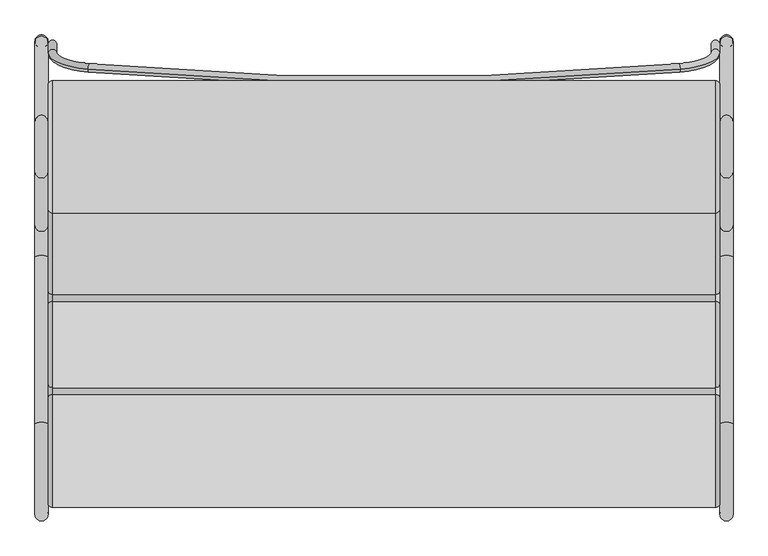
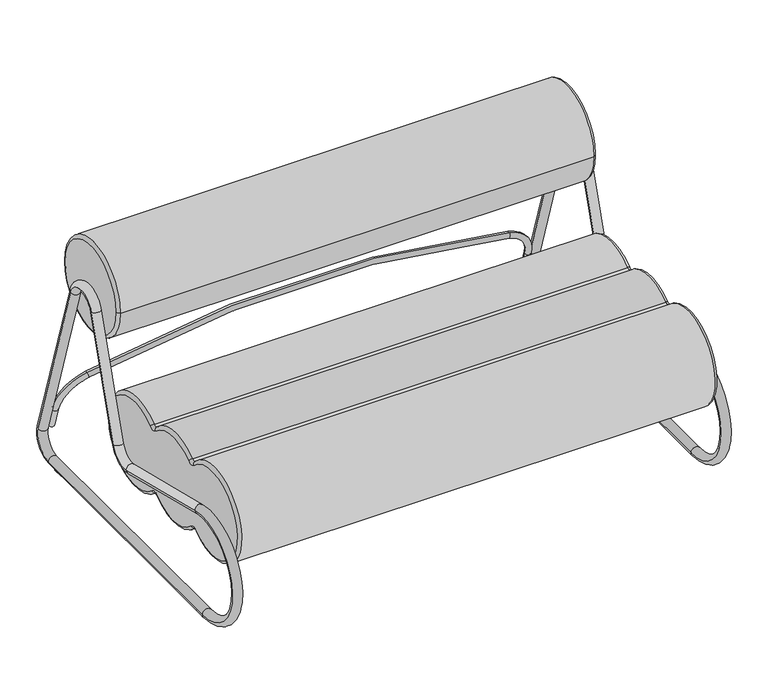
"""IFC4 building model written with IfcOpenShell, lengths in millimetres: furniture geometry, Norr11 - Fave Sofa : Norr11 - Fave Sofa."""

from ifc_helpers import new_model, si_unit, point, frame, frame_2d, origin, origin_with_axes, place, context, project, spatial, polyline, circle_curve, ellipse_curve, trimmed, segment, composite_curve, outline, extrude, source, transform, mapped, element, save
from ifc_brep_helpers import plane_surface, cylinder_surface, revolved_surface, advanced_brep


def furniture_9cea7e63(model_context):
    return source(origin(), model_context, "Body", "SolidModel", [
        advanced_brep(
        [(635.0, -99.0371066, 187.3023244), (635.0, -74.6397085, 186.1936304), (635.0, -66.5278768, 361.1205127), (635.0, -90.9152745, 362.2668383), (635.0, -242.5593695, 370.8688119), (635.0, -266.9214094, 372.4891571), (635.0, -278.6462906, 197.7786323), (635.0, -254.27705, 196.1200085), (-635.0, -74.6397085, 186.1936304), (-635.0, -99.0371066, 187.3023244), (-635.0, -254.27705, 196.1200085), (-635.0, -278.6462906, 197.7786323), (-635.0, -266.9214094, 372.4891571), (-635.0, -242.5593695, 370.8688119), (-635.0, -90.9152745, 362.2668383), (-635.0, -66.5278768, 361.1205127), (-626.5, -80.5343822, 180.0696756), (-626.5, -71.8305029, 367.7637165), (626.5, -71.8305029, 367.7637165), (626.5, -80.5343822, 180.0696756), (-626.5, -85.01288, 368.383352), (626.5, -85.01288, 368.383352), (-626.5, -247.7322118, 377.6135656), (626.5, -247.7322118, 377.6135656), (-626.5, -260.900882, 378.4894279), (626.5, -260.900882, 378.4894279), (-626.5, -273.4814999, 191.0277111), (626.5, -273.4814999, 191.0277111), (-626.5, -260.3089374, 190.1311577), (626.5, -260.3089374, 190.1311577), (-626.5, -93.7221649, 180.6689697), (626.5, -93.7221649, 180.6689697)],
        [
            (0, 1, circle_curve(frame((635.0, -87.4692924, 172.8650229), z_axis=(-1.0, 0.0, 0.0), x_axis=(0.0, 0.6934910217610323, 0.7204652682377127)), 18.5)),
            (1, 2, circle_curve(frame((635.0, 6.1250822, 270.099874), z_axis=(1.0, 0.0, 0.0), x_axis=(0.0, -0.6238383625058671, 0.7815533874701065)), 116.4611915)),
            (2, 3, circle_curve(frame((635.0, -78.0688865, 375.5792504), z_axis=(-1.0, 0.0, 0.0), x_axis=(0.0, -0.6943993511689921, -0.7195898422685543)), 18.5)),
            (3, 4, circle_curve(frame((635.0, -171.7319007, 278.5184546), z_axis=(1.0, 0.0, 0.0), x_axis=(0.0, -0.6085696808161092, 0.7935004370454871)), 116.383499)),
            (4, 5, circle_curve(frame((635.0, -253.8179086, 385.54857), z_axis=(-1.0, 0.0, 0.0), x_axis=(0.0, -0.7082973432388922, -0.705914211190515)), 18.5)),
            (5, 6, circle_curve(frame((635.0, -349.4116978, 290.2764149), z_axis=(1.0, 0.0, 0.0), x_axis=(0.0, 0.6076224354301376, -0.7942260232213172)), 116.4627952)),
            (6, 7, circle_curve(frame((635.0, -267.4052756, 183.0854509), z_axis=(-1.0, 0.0, 0.0), x_axis=(0.0, 0.7096338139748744, 0.7045706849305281)), 18.5)),
            (7, 0, circle_curve(frame((635.0, -171.7526851, 278.0555746), z_axis=(1.0, 0.0, 0.0), x_axis=(0.0, 0.6252872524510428, -0.7803946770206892)), 116.2914777)),
            (8, 9, circle_curve(frame((-635.0, -87.4692924, 172.8650229), z_axis=(1.0, 0.0, 0.0), x_axis=(0.0, 0.6934910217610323, 0.7204652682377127)), 18.5)),
            (9, 10, circle_curve(frame((-635.0, -171.7526851, 278.0555746), z_axis=(-1.0, 0.0, 0.0), x_axis=(0.0, 0.6252872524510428, -0.7803946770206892)), 116.2914777)),
            (10, 11, circle_curve(frame((-635.0, -267.4052756, 183.0854509), z_axis=(1.0, 0.0, 0.0), x_axis=(0.0, 0.7096338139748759, 0.7045706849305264)), 18.5)),
            (11, 12, circle_curve(frame((-635.0, -349.4116978, 290.2764149), z_axis=(-1.0, 0.0, 0.0), x_axis=(0.0, 0.6076224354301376, -0.7942260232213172)), 116.4627952)),
            (12, 13, circle_curve(frame((-635.0, -253.8179086, 385.54857), z_axis=(1.0, 0.0, 0.0), x_axis=(0.0, -0.7082973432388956, -0.7059142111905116)), 18.5)),
            (13, 14, circle_curve(frame((-635.0, -171.7319007, 278.5184546), z_axis=(-1.0, 0.0, 0.0), x_axis=(0.0, -0.6085696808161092, 0.7935004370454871)), 116.383499)),
            (14, 15, circle_curve(frame((-635.0, -78.0688865, 375.5792504), z_axis=(1.0, 0.0, 0.0), x_axis=(0.0, -0.6943993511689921, -0.7195898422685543)), 18.5)),
            (15, 8, circle_curve(frame((-635.0, 6.1250822, 270.099874), z_axis=(-1.0, 0.0, 0.0), x_axis=(0.0, -0.6238383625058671, 0.7815533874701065)), 116.4611915)),
            (16, 17, circle_curve(frame((-626.5, 6.1250822, 270.099874), z_axis=(1.0, 0.0, 0.0), x_axis=(0.0, -1.0, 0.0)), 124.9611915)),
            (17, 18),
            (18, 19, circle_curve(frame((626.5, 6.1250822, 270.099874), z_axis=(-1.0, 0.0, 0.0), x_axis=(0.0, -1.0, 0.0)), 124.9611915)),
            (19, 16),
            (17, 20, circle_curve(frame((-626.5, -78.0688865, 375.5792504), z_axis=(-1.0, 0.0, 0.0), x_axis=(0.0, -1.0, 0.0)), 10.0)),
            (20, 21),
            (21, 18, circle_curve(frame((626.5, -78.0688865, 375.5792504), z_axis=(1.0, 0.0, 0.0), x_axis=(0.0, -1.0, 0.0)), 10.0)),
            (20, 22, circle_curve(frame((-626.5, -171.7319007, 278.5184546), z_axis=(1.0, 0.0, 0.0), x_axis=(0.0, -1.0, 0.0)), 124.883499)),
            (22, 23),
            (23, 21, circle_curve(frame((626.5, -171.7319007, 278.5184546), z_axis=(-1.0, 0.0, 0.0), x_axis=(0.0, -1.0, 0.0)), 124.883499)),
            (22, 24, circle_curve(frame((-626.5, -253.8179086, 385.54857), z_axis=(-1.0, 0.0, 0.0), x_axis=(0.0, -1.0, 0.0)), 10.0)),
            (24, 25),
            (25, 23, circle_curve(frame((626.5, -253.8179086, 385.54857), z_axis=(1.0, 0.0, 0.0), x_axis=(0.0, -1.0, 0.0)), 10.0)),
            (24, 26, circle_curve(frame((-626.5, -349.4116978, 290.2764149), z_axis=(1.0, 0.0, 0.0), x_axis=(0.0, -1.0, 0.0)), 124.9627952)),
            (26, 27),
            (27, 25, circle_curve(frame((626.5, -349.4116978, 290.2764149), z_axis=(-1.0, 0.0, 0.0), x_axis=(0.0, -1.0, 0.0)), 124.9627952)),
            (26, 28, circle_curve(frame((-626.5, -267.4052756, 183.0854509), z_axis=(-1.0, 0.0, 0.0), x_axis=(0.0, -1.0, 0.0)), 10.0)),
            (28, 29),
            (29, 27, circle_curve(frame((626.5, -267.4052756, 183.0854509), z_axis=(1.0, 0.0, 0.0), x_axis=(0.0, -1.0, 0.0)), 10.0)),
            (28, 30, circle_curve(frame((-626.5, -171.7526851, 278.0555746), z_axis=(1.0, 0.0, 0.0), x_axis=(0.0, -1.0, 0.0)), 124.7914777)),
            (30, 31),
            (31, 29, circle_curve(frame((626.5, -171.7526851, 278.0555746), z_axis=(-1.0, 0.0, 0.0), x_axis=(0.0, -1.0, 0.0)), 124.7914777)),
            (30, 16, circle_curve(frame((-626.5, -87.4692924, 172.8650229), z_axis=(-1.0, 0.0, 0.0), x_axis=(0.0, -1.0, 0.0)), 10.0)),
            (19, 31, circle_curve(frame((626.5, -87.4692924, 172.8650229), z_axis=(1.0, 0.0, 0.0), x_axis=(0.0, -1.0, 0.0)), 10.0)),
            (30, 9, circle_curve(frame((-626.5, -99.0371066, 187.3023244), z_axis=(0.0, 0.7803946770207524, 0.6252872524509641), x_axis=(1.0, 0.0, 0.0)), 8.5)),
            (8, 16, circle_curve(frame((-626.5, -74.6397085, 186.1936304), z_axis=(0.0, -0.7204652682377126, 0.6934910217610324), x_axis=(1.0, 0.0, 0.0)), 8.5)),
            (28, 10, circle_curve(frame((-626.5, -254.27705, 196.1200085), z_axis=(0.0, 0.7045706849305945, -0.7096338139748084), x_axis=(1.0, 0.0, 0.0)), 8.5)),
            (26, 11, circle_curve(frame((-626.5, -278.6462906, 197.7786323), z_axis=(0.0, 0.794226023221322, 0.6076224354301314), x_axis=(1.0, 0.0, 0.0)), 8.5)),
            (24, 12, circle_curve(frame((-626.5, -266.9214094, 372.4891571), z_axis=(0.0, -0.7059142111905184, 0.7082973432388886), x_axis=(1.0, 0.0, 0.0)), 8.5)),
            (22, 13, circle_curve(frame((-626.5, -242.5593695, 370.8688119), z_axis=(0.0, -0.7935004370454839, -0.6085696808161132), x_axis=(1.0, 0.0, 0.0)), 8.5)),
            (20, 14, circle_curve(frame((-626.5, -90.9152745, 362.2668383), z_axis=(0.0, -0.719589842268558, 0.6943993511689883), x_axis=(1.0, 0.0, 0.0)), 8.5)),
            (17, 15, circle_curve(frame((-626.5, -66.5278768, 361.1205127), z_axis=(0.0, -0.781553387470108, -0.6238383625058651), x_axis=(1.0, 0.0, 0.0)), 8.5)),
            (0, 31, circle_curve(frame((626.5, -99.0371066, 187.3023244), z_axis=(0.0, 0.7803946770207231, 0.6252872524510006), x_axis=(-1.0, 0.0, 0.0)), 8.5)),
            (19, 1, circle_curve(frame((626.5, -74.6397085, 186.1936304), z_axis=(0.0, -0.7204652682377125, 0.6934910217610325), x_axis=(-1.0, 0.0, 0.0)), 8.5)),
            (7, 29, circle_curve(frame((626.5, -254.27705, 196.1200085), z_axis=(0.0, 0.704570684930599, -0.709633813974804), x_axis=(-1.0, 0.0, 0.0)), 8.5)),
            (6, 27, circle_curve(frame((626.5, -278.6462906, 197.7786323), z_axis=(0.0, 0.7942260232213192, 0.6076224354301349), x_axis=(-1.0, 0.0, 0.0)), 8.5)),
            (5, 25, circle_curve(frame((626.5, -266.9214094, 372.4891571), z_axis=(0.0, -0.7059142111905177, 0.7082973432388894), x_axis=(-1.0, 0.0, 0.0)), 8.5)),
            (4, 23, circle_curve(frame((626.5, -242.5593695, 370.8688119), z_axis=(0.0, -0.7935004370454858, -0.6085696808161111), x_axis=(-1.0, 0.0, 0.0)), 8.5)),
            (3, 21, circle_curve(frame((626.5, -90.9152745, 362.2668383), z_axis=(0.0, -0.7195898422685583, 0.694399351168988), x_axis=(-1.0, 0.0, 0.0)), 8.5)),
            (2, 18, circle_curve(frame((626.5, -66.5278768, 361.1205127), z_axis=(0.0, -0.7815533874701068, -0.6238383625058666), x_axis=(-1.0, 0.0, 0.0)), 8.5)),
        ],
        [
            plane_surface(frame((635.0, -118.8361093, 270.099874), z_axis=(1.0, 0.0, 0.0), x_axis=(0.0, 0.0, -1.0))),
            plane_surface(frame((-635.0, -118.8361093, 270.099874), z_axis=(-1.0, 0.0, 0.0), x_axis=(0.0, 0.0, 1.0))),
            cylinder_surface(frame((-635.0, 6.1250822, 270.099874), z_axis=(1.0, 0.0, 0.0), x_axis=(0.0, -1.0, 0.0)), 124.9611915),
            revolved_surface(polyline([(-626.5, -88.0688865, 375.5792504), (626.5, -88.0688865, 375.5792504)]), (-635.0, -78.0688865, 375.5792504), (-1.0, 0.0, 0.0)),
            cylinder_surface(frame((-635.0, -171.7319007, 278.5184546), z_axis=(1.0, 0.0, 0.0), x_axis=(0.0, -1.0, 0.0)), 124.883499),
            revolved_surface(polyline([(-626.5, -263.8179086, 385.54857), (626.5, -263.8179086, 385.54857)]), (-635.0, -253.8179086, 385.54857), (-1.0, 0.0, 0.0)),
            cylinder_surface(frame((-635.0, -349.4116978, 290.2764149), z_axis=(1.0, 0.0, 0.0), x_axis=(0.0, -1.0, 0.0)), 124.9627952),
            revolved_surface(polyline([(-626.5, -277.4052756, 183.0854509), (626.5, -277.4052756, 183.0854509)]), (-635.0, -267.4052756, 183.0854509), (-1.0, 0.0, 0.0)),
            cylinder_surface(frame((-635.0, -171.7526851, 278.0555746), z_axis=(1.0, 0.0, 0.0), x_axis=(0.0, -1.0, 0.0)), 124.7914777),
            revolved_surface(polyline([(-626.5, -97.4692924, 172.8650229), (626.5, -97.4692924, 172.8650229)]), (-635.0, -87.4692924, 172.8650229), (-1.0, 0.0, 0.0)),
            revolved_surface(trimmed(ellipse_curve(frame((-626.5, -74.6397085, 186.1936304), z_axis=(0.0, 0.7204652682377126, -0.6934910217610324), x_axis=(1.0, 0.0, 0.0)), 8.5, 8.5), [point((-626.5, -80.5343822, 180.0696756))], [point((-635.0, -74.6397085, 186.1936304))], True, "CARTESIAN"), (0.0, -87.4692924, 172.8650229), (1.0, 0.0, 0.0)),
            revolved_surface(trimmed(ellipse_curve(frame((-626.5, -99.0371066, 187.3023244), z_axis=(0.0, 0.7803946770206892, 0.6252872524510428), x_axis=(1.0, 0.0, 0.0)), 8.5, 8.5), [point((-626.5, -93.7221649, 180.6689697))], [point((-635.0, -99.0371066, 187.3023244))], True, "CARTESIAN"), (0.0, -171.7526851, 278.0555746), (-1.0, 0.0, 0.0)),
            revolved_surface(trimmed(ellipse_curve(frame((-626.5, -254.27705, 196.1200085), z_axis=(0.0, 0.7045706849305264, -0.7096338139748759), x_axis=(1.0, 0.0, 0.0)), 8.5, 8.5), [point((-626.5, -260.3089374, 190.1311577))], [point((-635.0, -254.27705, 196.1200085))], True, "CARTESIAN"), (0.0, -267.4052756, 183.0854509), (1.0, 0.0, 0.0)),
            revolved_surface(trimmed(ellipse_curve(frame((-626.5, -278.6462906, 197.7786323), z_axis=(0.0, 0.7942260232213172, 0.6076224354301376), x_axis=(1.0, 0.0, 0.0)), 8.5, 8.5), [point((-626.5, -273.4814999, 191.0277111))], [point((-635.0, -278.6462906, 197.7786323))], True, "CARTESIAN"), (0.0, -349.4116978, 290.2764149), (-1.0, 0.0, 0.0)),
            revolved_surface(trimmed(ellipse_curve(frame((-626.5, -266.9214094, 372.4891571), z_axis=(0.0, -0.7059142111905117, 0.7082973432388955), x_axis=(1.0, 0.0, 0.0)), 8.5, 8.5), [point((-626.5, -260.900882, 378.4894279))], [point((-635.0, -266.9214094, 372.4891571))], True, "CARTESIAN"), (0.0, -253.8179086, 385.54857), (1.0, 0.0, 0.0)),
            revolved_surface(trimmed(ellipse_curve(frame((-626.5, -242.5593695, 370.8688119), z_axis=(0.0, -0.793500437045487, -0.6085696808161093), x_axis=(1.0, 0.0, 0.0)), 8.5, 8.5), [point((-626.5, -247.7322118, 377.6135656))], [point((-635.0, -242.5593695, 370.8688119))], True, "CARTESIAN"), (0.0, -171.7319007, 278.5184546), (-1.0, 0.0, 0.0)),
            revolved_surface(trimmed(ellipse_curve(frame((-626.5, -90.9152745, 362.2668383), z_axis=(0.0, -0.7195898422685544, 0.694399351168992), x_axis=(1.0, 0.0, 0.0)), 8.5, 8.5), [point((-626.5, -85.01288, 368.383352))], [point((-635.0, -90.9152745, 362.2668383))], True, "CARTESIAN"), (0.0, -78.0688865, 375.5792504), (1.0, 0.0, 0.0)),
            revolved_surface(trimmed(ellipse_curve(frame((-626.5, -66.5278768, 361.1205127), z_axis=(0.0, -0.7815533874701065, -0.6238383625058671), x_axis=(1.0, 0.0, 0.0)), 8.5, 8.5), [point((-626.5, -71.8305029, 367.7637165))], [point((-635.0, -66.5278768, 361.1205127))], True, "CARTESIAN"), (0.0, 6.1250822, 270.099874), (-1.0, 0.0, 0.0)),
            revolved_surface(trimmed(ellipse_curve(frame((626.5, -74.6397085, 186.1936304), z_axis=(0.0, 0.7204652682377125, -0.6934910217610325), x_axis=(-1.0, 0.0, 0.0)), 8.5, 8.5), [point((635.0, -74.6397085, 186.1936304))], [point((626.5, -80.5343822, 180.0696756))], True, "CARTESIAN"), (335.0, -87.4692924, 172.8650229), (1.0, 0.0, 0.0)),
            revolved_surface(trimmed(ellipse_curve(frame((626.5, -99.0371066, 187.3023244), z_axis=(0.0, 0.7803946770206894, 0.6252872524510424), x_axis=(-1.0, 0.0, 0.0)), 8.5, 8.5), [point((635.0, -99.0371066, 187.3023244))], [point((626.5, -93.7221649, 180.6689697))], True, "CARTESIAN"), (335.0, -171.7526851, 278.0555746), (-1.0, 0.0, 0.0)),
            revolved_surface(trimmed(ellipse_curve(frame((626.5, -254.27705, 196.1200085), z_axis=(0.0, 0.704570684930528, -0.7096338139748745), x_axis=(-1.0, 0.0, 0.0)), 8.5, 8.5), [point((635.0, -254.27705, 196.1200085))], [point((626.5, -260.3089374, 190.1311577))], True, "CARTESIAN"), (335.0, -267.4052756, 183.0854509), (1.0, 0.0, 0.0)),
            revolved_surface(trimmed(ellipse_curve(frame((626.5, -278.6462906, 197.7786323), z_axis=(0.0, 0.7942260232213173, 0.6076224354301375), x_axis=(-1.0, 0.0, 0.0)), 8.5, 8.5), [point((635.0, -278.6462906, 197.7786323))], [point((626.5, -273.4814999, 191.0277111))], True, "CARTESIAN"), (335.0, -349.4116978, 290.2764149), (-1.0, 0.0, 0.0)),
            revolved_surface(trimmed(ellipse_curve(frame((626.5, -266.9214094, 372.4891571), z_axis=(0.0, -0.7059142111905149, 0.7082973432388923), x_axis=(-1.0, 0.0, 0.0)), 8.5, 8.5), [point((635.0, -266.9214094, 372.4891571))], [point((626.5, -260.900882, 378.4894279))], True, "CARTESIAN"), (335.0, -253.8179086, 385.54857), (1.0, 0.0, 0.0)),
            revolved_surface(trimmed(ellipse_curve(frame((626.5, -242.5593695, 370.8688119), z_axis=(0.0, -0.7935004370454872, -0.6085696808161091), x_axis=(-1.0, 0.0, 0.0)), 8.5, 8.5), [point((635.0, -242.5593695, 370.8688119))], [point((626.5, -247.7322118, 377.6135656))], True, "CARTESIAN"), (335.0, -171.7319007, 278.5184546), (-1.0, 0.0, 0.0)),
            revolved_surface(trimmed(ellipse_curve(frame((626.5, -90.9152745, 362.2668383), z_axis=(0.0, -0.7195898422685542, 0.6943993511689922), x_axis=(-1.0, 0.0, 0.0)), 8.5, 8.5), [point((635.0, -90.9152745, 362.2668383))], [point((626.5, -85.01288, 368.383352))], True, "CARTESIAN"), (335.0, -78.0688865, 375.5792504), (1.0, 0.0, 0.0)),
            revolved_surface(trimmed(ellipse_curve(frame((626.5, -66.5278768, 361.1205127), z_axis=(0.0, -0.7815533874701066, -0.6238383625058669), x_axis=(-1.0, 0.0, 0.0)), 8.5, 8.5), [point((635.0, -66.5278768, 361.1205127))], [point((626.5, -71.8305029, 367.7637165))], True, "CARTESIAN"), (335.0, 6.1250822, 270.099874), (-1.0, 0.0, 0.0)),
        ],
        [
            (0, [[1, 2, 3, 4, 5, 6, 7, 8]]),
            (1, [[9, 10, 11, 12, 13, 14, 15, 16]]),
            (2, [[17, 18, 19, 20]]),
            (3, [[21, 22, 23, -18]]),
            (4, [[24, 25, 26, -22]]),
            (5, [[27, 28, 29, -25]]),
            (6, [[30, 31, 32, -28]]),
            (7, [[33, 34, 35, -31]]),
            (8, [[36, 37, 38, -34]]),
            (9, [[39, -20, 40, -37]]),
            (10, [[41, -9, 42, -39]]),
            (11, [[-41, -36, 43, -10]]),
            (12, [[-43, -33, 44, -11]]),
            (13, [[-44, -30, 45, -12]]),
            (14, [[-45, -27, 46, -13]]),
            (15, [[-46, -24, 47, -14]]),
            (16, [[-47, -21, 48, -15]]),
            (17, [[-42, -16, -48, -17]]),
            (18, [[49, -40, 50, -1]]),
            (19, [[-49, -8, 51, -38]]),
            (20, [[-51, -7, 52, -35]]),
            (21, [[-52, -6, 53, -32]]),
            (22, [[-53, -5, 54, -29]]),
            (23, [[-54, -4, 55, -26]]),
            (24, [[-55, -3, 56, -23]]),
            (25, [[-50, -19, -56, -2]]),
        ],
    ),
        advanced_brep(
        [(635.0, 91.3471665, 584.8030049), (635.0, 324.3081823, 584.8030049), (-635.0, 324.3081823, 584.8030049), (-635.0, 91.3471665, 584.8030049), (-626.4805079, 332.8276744, 584.8030049), (-626.4805079, 82.8276744, 584.8030049), (626.4805129, 82.8276744, 584.8030049), (626.4805079, 332.8276744, 584.8030049)],
        [
            (0, 1, circle_curve(frame((635.0, 207.8276744, 584.8030049), z_axis=(1.0, 0.0, 0.0), x_axis=(0.0, -1.0, 0.0)), 116.4805079)),
            (1, 0, circle_curve(frame((635.0, 207.8276744, 584.8030049), z_axis=(1.0, 0.0, 0.0), x_axis=(0.0, 1.0, 0.0)), 116.4805079)),
            (2, 3, circle_curve(frame((-635.0, 207.8276744, 584.8030049), z_axis=(-1.0, 0.0, 0.0), x_axis=(0.0, -1.0, 0.0)), 116.4805079)),
            (3, 2, circle_curve(frame((-635.0, 207.8276744, 584.8030049), z_axis=(-1.0, 0.0, 0.0), x_axis=(0.0, 1.0, 0.0)), 116.4805079)),
            (4, 5, circle_curve(frame((-626.4805079, 207.8276744, 584.8030049), z_axis=(1.0, 0.0, 0.0), x_axis=(0.0, -1.0, 0.0)), 125.0)),
            (5, 6),
            (6, 7, circle_curve(frame((626.4805079, 207.8276744, 584.8030049), z_axis=(-1.0, 0.0, 0.0), x_axis=(0.0, -1.0, 0.0)), 125.0)),
            (7, 4),
            (5, 4, circle_curve(frame((-626.4805079, 207.8276744, 584.8030049), z_axis=(1.0, 0.0, 0.0), x_axis=(0.0, -1.0, 0.0)), 125.0)),
            (7, 6, circle_curve(frame((626.4805079, 207.8276744, 584.8030049), z_axis=(-1.0, 0.0, 0.0), x_axis=(0.0, -1.0, 0.0)), 125.0)),
            (2, 4, circle_curve(frame((-626.4805079, 324.3081823, 584.8030049), z_axis=(0.0, 0.0, -1.0), x_axis=(1.0, 0.0, 0.0)), 8.5194921)),
            (5, 3, circle_curve(frame((-626.4805079, 91.3471665, 584.8030049), z_axis=(0.0, 0.0, -1.0), x_axis=(1.0, 0.0, 0.0)), 8.5194921)),
            (7, 1, circle_curve(frame((626.4805079, 324.3081823, 584.8030049), z_axis=(0.0, 0.0, -1.0), x_axis=(-1.0, 0.0, 0.0)), 8.5194921)),
            (0, 6, circle_curve(frame((626.4805079, 91.3471665, 584.8030049), z_axis=(0.0, 0.0, -1.0), x_axis=(-1.0, 0.0, 0.0)), 8.5194921)),
        ],
        [
            plane_surface(frame((635.0, 82.8276744, 584.8030049), z_axis=(1.0, 0.0, 0.0), x_axis=(0.0, 0.0, -1.0))),
            plane_surface(frame((-635.0, 82.8276744, 584.8030049), z_axis=(-1.0, 0.0, 0.0), x_axis=(0.0, 0.0, 1.0))),
            cylinder_surface(frame((-635.0, 207.8276744, 584.8030049), z_axis=(1.0, 0.0, 0.0), x_axis=(0.0, -1.0, 0.0)), 125.0),
            revolved_surface(trimmed(ellipse_curve(frame((-626.4805079, 91.3471665, 584.8030049), z_axis=(0.0, 0.0, 1.0), x_axis=(1.0, 0.0, 0.0)), 8.5194921, 8.5194921), [point((-635.0, 91.3471665, 584.8030049))], [point((-626.4805079, 82.8276744, 584.8030049))], True, "CARTESIAN"), (0.0, 207.8276744, 584.8030049), (1.0, 0.0, 0.0)),
            revolved_surface(trimmed(ellipse_curve(frame((-626.4805079, 324.3081823, 584.8030049), z_axis=(0.0, 0.0, -1.0), x_axis=(1.0, 0.0, 0.0)), 8.5194921, 8.5194921), [point((-635.0, 324.3081823, 584.8030049))], [point((-626.4805079, 332.8276744, 584.8030049))], True, "CARTESIAN"), (0.0, 207.8276744, 584.8030049), (1.0, 0.0, 0.0)),
            revolved_surface(trimmed(ellipse_curve(frame((626.4805079, 91.3471665, 584.8030049), z_axis=(0.0, 0.0, 1.0), x_axis=(-1.0, 0.0, 0.0)), 8.5194921, 8.5194921), [point((626.4805079, 82.8276744, 584.8030049))], [point((635.0, 91.3471665, 584.8030049))], True, "CARTESIAN"), (335.0, 207.8276744, 584.8030049), (1.0, 0.0, 0.0)),
            revolved_surface(trimmed(ellipse_curve(frame((626.4805079, 324.3081823, 584.8030049), z_axis=(0.0, 0.0, -1.0), x_axis=(-1.0, 0.0, 0.0)), 8.5194921, 8.5194921), [point((626.4805079, 332.8276744, 584.8030049))], [point((635.0, 324.3081823, 584.8030049))], True, "CARTESIAN"), (335.0, 207.8276744, 584.8030049), (1.0, 0.0, 0.0)),
        ],
        [
            (0, [[1, 2]]),
            (1, [[3, 4]]),
            (2, [[5, 6, 7, 8]]),
            (2, [[9, -8, 10, -6]]),
            (3, [[11, -9, 12, -3]]),
            (4, [[-11, -4, -12, -5]]),
            (5, [[13, -1, 14, -10]]),
            (6, [[-13, -7, -14, -2]]),
        ],
    ),
        extrude(outline(composite_curve([segment(trimmed(circle_curve(frame_2d((647.9136531, 310.7190841)), 6.0000092), [point((653.9136623, 310.7190841))], [point((641.9136438, 310.7190841))], False, "CARTESIAN"), True, "CONTINUOUS"), segment(polyline([(641.9136438, 310.7190841), (641.9136438, 337.731551)]), True, "CONTINUOUS"), segment(trimmed(circle_curve(frame_2d((647.9136531, 337.731551)), 6.0000092), [point((641.9136438, 337.731551))], [point((653.9136623, 337.731551))], False, "CARTESIAN"), True, "CONTINUOUS"), segment(polyline([(653.9136623, 337.731551), (653.9136623, 310.7190841)]), True, "CONTINUOUS")], self_intersect=False)), origin_with_axes(), (0.0, 0.0, 1.0), 3.9643757),
        extrude(outline(composite_curve([segment(trimmed(circle_curve(frame_2d((647.9136531, -337.7499273)), 6.0000092), [point((653.9136623, -337.7499273))], [point((641.9136438, -337.7499273))], False, "CARTESIAN"), True, "CONTINUOUS"), segment(polyline([(641.9136438, -337.7499273), (641.9136438, -310.7374605)]), True, "CONTINUOUS"), segment(trimmed(circle_curve(frame_2d((647.9136531, -310.7374605)), 6.0000092), [point((641.9136438, -310.7374605))], [point((653.9136623, -310.7374605))], False, "CARTESIAN"), True, "CONTINUOUS"), segment(polyline([(653.9136623, -310.7374605), (653.9136623, -337.7499273)]), True, "CONTINUOUS")], self_intersect=False)), origin_with_axes(), (0.0, 0.0, 1.0), 3.9643757),
        extrude(outline(composite_curve([segment(polyline([(-653.9136623, 310.7190841), (-653.9136623, 337.731551)]), True, "CONTINUOUS"), segment(trimmed(circle_curve(frame_2d((-647.9136531, 337.731551)), 6.0000092), [point((-653.9136623, 337.731551))], [point((-641.9136438, 337.731551))], False, "CARTESIAN"), True, "CONTINUOUS"), segment(polyline([(-641.9136438, 337.731551), (-641.9136438, 310.7190841)]), True, "CONTINUOUS"), segment(trimmed(circle_curve(frame_2d((-647.9136531, 310.7190841)), 6.0000092), [point((-641.9136438, 310.7190841))], [point((-653.9136623, 310.7190841))], False, "CARTESIAN"), True, "CONTINUOUS")], self_intersect=False)), origin_with_axes(), (0.0, 0.0, 1.0), 3.9643757),
        extrude(outline(composite_curve([segment(polyline([(-653.9136623, -337.7499273), (-653.9136623, -310.7374605)]), True, "CONTINUOUS"), segment(trimmed(circle_curve(frame_2d((-647.9136531, -310.7374605)), 6.0000092), [point((-653.9136623, -310.7374605))], [point((-641.9136438, -310.7374605))], False, "CARTESIAN"), True, "CONTINUOUS"), segment(polyline([(-641.9136438, -310.7374605), (-641.9136438, -337.7499273)]), True, "CONTINUOUS"), segment(trimmed(circle_curve(frame_2d((-647.9136531, -337.7499273)), 6.0000092), [point((-641.9136438, -337.7499273))], [point((-653.9136623, -337.7499273))], False, "CARTESIAN"), True, "CONTINUOUS")], self_intersect=False)), origin_with_axes(), (0.0, 0.0, 1.0), 3.9643757),
        advanced_brep(
        [(659.7897199, -316.59218, 284.7942569), (659.7897199, -349.7757849, 13.8640186), (634.7897199, -349.7757849, 13.8640186), (634.7897199, -316.59218, 284.7942569), (634.7897199, -0.9459559, 206.2958087), (659.7897199, -0.9459559, 206.2958087), (659.7897199, 59.2781389, 239.7143765), (634.7897199, 59.2781389, 239.7143765), (634.7897199, 160.2647078, 550.847029), (659.7897199, 160.2647078, 550.847029), (659.7897199, 255.4805117, 550.5173581), (634.7897199, 255.4805117, 550.5173581), (634.7897199, 405.1400834, 78.3158499), (659.7897199, 405.1400834, 78.3158499), (659.7897199, 357.9559433, 13.8640186), (634.7897199, 357.9559433, 13.8640186)],
        [
            (0, 1, circle_curve(frame((659.7897199, -349.7757849, 151.361306), z_axis=(1.0, 0.0, 0.0), x_axis=(0.0, 0.0, -1.0)), 137.4972874)),
            (1, 2, circle_curve(frame((647.2897199, -349.7757849, 13.8640186), z_axis=(0.0, -1.0, 0.0), x_axis=(-1.0, 0.0, 0.0)), 12.5)),
            (2, 3, circle_curve(frame((634.7897199, -349.7757849, 151.361306), z_axis=(-1.0, 0.0, 0.0), x_axis=(0.0, 0.0, -1.0)), 137.4972874)),
            (3, 0, circle_curve(frame((647.2897199, -316.59218, 284.7942569), z_axis=(0.0, -0.9704406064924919, 0.24134006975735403), x_axis=(-1.0, 0.0, 0.0)), 12.5)),
            (2, 1, circle_curve(frame((647.2897199, -349.7757849, 13.8640186), z_axis=(0.0, -1.0, 0.0), x_axis=(-1.0, 0.0, 0.0)), 12.5)),
            (0, 3, circle_curve(frame((647.2897199, -316.59218, 284.7942569), z_axis=(0.0, -0.9704406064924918, 0.24134006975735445), x_axis=(-1.0, 0.0, 0.0)), 12.5)),
            (3, 4),
            (4, 5, circle_curve(frame((647.2897199, -0.9459559, 206.2958087), z_axis=(0.0, -0.9704406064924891, 0.24134006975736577), x_axis=(-1.0, 0.0, 0.0)), 12.5)),
            (5, 0),
            (5, 4, circle_curve(frame((647.2897199, -0.9459559, 206.2958087), z_axis=(0.0, -0.9704406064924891, 0.24134006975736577), x_axis=(-1.0, 0.0, 0.0)), 12.5)),
            (6, 5, circle_curve(frame((659.7897199, 11.2423723, 255.3056917), z_axis=(-1.0, 0.0, 0.0), x_axis=(0.0, -0.24134006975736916, -0.9704406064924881)), 50.5027126)),
            (4, 7, circle_curve(frame((634.7897199, 11.2423723, 255.3056917), z_axis=(1.0, 0.0, 0.0), x_axis=(0.0, -0.24134006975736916, -0.9704406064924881)), 50.5027126)),
            (7, 6, circle_curve(frame((647.2897199, 59.2781389, 239.7143765), z_axis=(0.0, -0.3087223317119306, -0.951152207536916), x_axis=(-1.0, 0.0, 0.0)), 12.5)),
            (6, 7, circle_curve(frame((647.2897199, 59.2781389, 239.7143765), z_axis=(0.0, -0.3087223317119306, -0.951152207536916), x_axis=(-1.0, 0.0, 0.0)), 12.5)),
            (7, 8),
            (8, 9, circle_curve(frame((647.2897199, 160.2647078, 550.847029), z_axis=(0.0, -0.30872233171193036, -0.9511522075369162), x_axis=(-1.0, 0.0, 0.0)), 12.5)),
            (9, 6),
            (9, 8, circle_curve(frame((647.2897199, 160.2647078, 550.847029), z_axis=(0.0, -0.30872233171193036, -0.9511522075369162), x_axis=(-1.0, 0.0, 0.0)), 12.5)),
            (10, 9, circle_curve(frame((659.7897199, 207.819738, 535.4117499), z_axis=(1.0, 0.0, 0.0), x_axis=(0.0, -0.9511522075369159, 0.30872233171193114)), 49.9972874)),
            (8, 11, circle_curve(frame((634.7897199, 207.819738, 535.4117499), z_axis=(-1.0, 0.0, 0.0), x_axis=(0.0, -0.9511522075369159, 0.30872233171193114)), 49.9972874)),
            (11, 10, circle_curve(frame((647.2897199, 255.4805117, 550.5173581), z_axis=(0.0, -0.3021285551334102, 0.9532671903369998), x_axis=(-1.0, 0.0, 0.0)), 12.5)),
            (10, 11, circle_curve(frame((647.2897199, 255.4805117, 550.5173581), z_axis=(0.0, -0.3021285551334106, 0.9532671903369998), x_axis=(-1.0, 0.0, 0.0)), 12.5)),
            (11, 12),
            (12, 13, circle_curve(frame((647.2897199, 405.1400834, 78.3158499), z_axis=(0.0, -0.3021285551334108, 0.9532671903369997), x_axis=(-1.0, 0.0, 0.0)), 12.5)),
            (13, 10),
            (13, 12, circle_curve(frame((647.2897199, 405.1400834, 78.3158499), z_axis=(0.0, -0.3021285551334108, 0.9532671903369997), x_axis=(-1.0, 0.0, 0.0)), 12.5)),
            (14, 13, circle_curve(frame((659.7897199, 357.9559433, 63.361306), z_axis=(1.0, 0.0, 0.0), x_axis=(0.0, 0.9532671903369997, 0.3021285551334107)), 49.4972874)),
            (12, 15, circle_curve(frame((634.7897199, 357.9559433, 63.361306), z_axis=(-1.0, 0.0, 0.0), x_axis=(0.0, 0.9532671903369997, 0.3021285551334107)), 49.4972874)),
            (15, 14, circle_curve(frame((647.2897199, 357.9559433, 13.8640186), z_axis=(0.0, 1.0, 0.0), x_axis=(-1.0, 0.0, 0.0)), 12.5)),
            (14, 15, circle_curve(frame((647.2897199, 357.9559433, 13.8640186), z_axis=(0.0, 1.0, 0.0), x_axis=(-1.0, 0.0, 0.0)), 12.5)),
            (15, 2),
            (1, 14),
        ],
        [
            revolved_surface(trimmed(ellipse_curve(frame((647.2897199, -349.7757849, 13.8640186), z_axis=(0.0, 1.0, 0.0), x_axis=(-1.0, 0.0, 0.0)), 12.5, 12.5), [point((634.7897199, -349.7757849, 13.8640186))], [point((659.7897199, -349.7757849, 13.8640186))], True, "CARTESIAN"), (335.0, -349.7757849, 151.361306), (-1.0, 0.0, 0.0)),
            revolved_surface(trimmed(ellipse_curve(frame((647.2897199, -349.7757849, 13.8640186), z_axis=(0.0, 1.0, 0.0), x_axis=(-1.0, 0.0, 0.0)), 12.5, 12.5), [point((659.7897199, -349.7757849, 13.8640186))], [point((634.7897199, -349.7757849, 13.8640186))], True, "CARTESIAN"), (335.0, -349.7757849, 151.361306), (-1.0, 0.0, 0.0)),
            cylinder_surface(frame((647.2897199, -316.59218, 284.7942569), z_axis=(0.0, -0.9704406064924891, 0.24134006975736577), x_axis=(-1.0, 0.0, 0.0)), 12.5),
            revolved_surface(trimmed(ellipse_curve(frame((647.2897199, -0.9459559, 206.2958087), z_axis=(0.0, -0.9704406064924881, 0.241340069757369), x_axis=(-1.0, 0.0, 0.0)), 12.5, 12.5), [point((634.7897199, -0.9459559, 206.2958087))], [point((659.7897199, -0.9459559, 206.2958087))], True, "CARTESIAN"), (335.0, 11.2423723, 255.3056917), (1.0, 0.0, 0.0)),
            revolved_surface(trimmed(ellipse_curve(frame((647.2897199, -0.9459559, 206.2958087), z_axis=(0.0, -0.9704406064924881, 0.241340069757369), x_axis=(-1.0, 0.0, 0.0)), 12.5, 12.5), [point((659.7897199, -0.9459559, 206.2958087))], [point((634.7897199, -0.9459559, 206.2958087))], True, "CARTESIAN"), (335.0, 11.2423723, 255.3056917), (1.0, 0.0, 0.0)),
            cylinder_surface(frame((647.2897199, 59.2781389, 239.7143765), z_axis=(0.0, -0.30872233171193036, -0.9511522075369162), x_axis=(-1.0, 0.0, 0.0)), 12.5),
            revolved_surface(trimmed(ellipse_curve(frame((647.2897199, 160.2647078, 550.847029), z_axis=(0.0, -0.3087223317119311, -0.9511522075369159), x_axis=(-1.0, 0.0, 0.0)), 12.5, 12.5), [point((634.7897199, 160.2647078, 550.847029))], [point((659.7897199, 160.2647078, 550.847029))], True, "CARTESIAN"), (335.0, 207.819738, 535.4117499), (-1.0, 0.0, 0.0)),
            revolved_surface(trimmed(ellipse_curve(frame((647.2897199, 160.2647078, 550.847029), z_axis=(0.0, -0.3087223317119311, -0.9511522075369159), x_axis=(-1.0, 0.0, 0.0)), 12.5, 12.5), [point((659.7897199, 160.2647078, 550.847029))], [point((634.7897199, 160.2647078, 550.847029))], True, "CARTESIAN"), (335.0, 207.819738, 535.4117499), (-1.0, 0.0, 0.0)),
            cylinder_surface(frame((647.2897199, 255.4805117, 550.5173581), z_axis=(0.0, -0.3021285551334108, 0.9532671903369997), x_axis=(-1.0, 0.0, 0.0)), 12.5),
            revolved_surface(trimmed(ellipse_curve(frame((647.2897199, 405.1400834, 78.3158499), z_axis=(0.0, -0.30212855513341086, 0.9532671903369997), x_axis=(-1.0, 0.0, 0.0)), 12.5, 12.5), [point((634.7897199, 405.1400834, 78.3158499))], [point((659.7897199, 405.1400834, 78.3158499))], True, "CARTESIAN"), (335.0, 357.9559433, 63.361306), (-1.0, 0.0, 0.0)),
            revolved_surface(trimmed(ellipse_curve(frame((647.2897199, 405.1400834, 78.3158499), z_axis=(0.0, -0.30212855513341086, 0.9532671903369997), x_axis=(-1.0, 0.0, 0.0)), 12.5, 12.5), [point((659.7897199, 405.1400834, 78.3158499))], [point((634.7897199, 405.1400834, 78.3158499))], True, "CARTESIAN"), (335.0, 357.9559433, 63.361306), (-1.0, 0.0, 0.0)),
            cylinder_surface(frame((647.2897199, 357.9559433, 13.8640186), z_axis=(0.0, 1.0, 0.0), x_axis=(-1.0, 0.0, 0.0)), 12.5),
        ],
        [
            (0, [[1, 2, 3, 4]]),
            (1, [[-3, 5, -1, 6]]),
            (2, [[-4, 7, 8, 9]]),
            (2, [[-6, -9, 10, -7]]),
            (3, [[11, -8, 12, 13]]),
            (4, [[-12, -10, -11, 14]]),
            (5, [[-13, 15, 16, 17]]),
            (5, [[-14, -17, 18, -15]]),
            (6, [[19, -16, 20, 21]]),
            (7, [[-20, -18, -19, 22]]),
            (8, [[-21, 23, 24, 25]]),
            (8, [[-22, -25, 26, -23]]),
            (9, [[27, -24, 28, 29]]),
            (10, [[-28, -26, -27, 30]]),
            (11, [[-29, 31, -2, 32]]),
            (11, [[-30, -32, -5, -31]]),
        ],
    ),
        advanced_brep(
        [(-634.7897199, -316.59218, 284.7942569), (-634.7897199, -349.7757849, 13.8640186), (-659.7897199, -349.7757849, 13.8640186), (-659.7897199, -316.59218, 284.7942569), (-659.7897199, -0.9459559, 206.2958087), (-634.7897199, -0.9459559, 206.2958087), (-634.7897199, 59.2781389, 239.7143765), (-659.7897199, 59.2781389, 239.7143765), (-659.7897199, 160.2647078, 550.847029), (-634.7897199, 160.2647078, 550.847029), (-634.7897199, 255.4805117, 550.5173581), (-659.7897199, 255.4805117, 550.5173581), (-659.7897199, 405.1400834, 78.3158499), (-634.7897199, 405.1400834, 78.3158499), (-634.7897199, 357.9559433, 13.8640186), (-659.7897199, 357.9559433, 13.8640186)],
        [
            (0, 1, circle_curve(frame((-634.7897199, -349.7757849, 151.361306), z_axis=(1.0, 0.0, 0.0), x_axis=(0.0, 0.0, -1.0)), 137.4972874)),
            (1, 2, circle_curve(frame((-647.2897199, -349.7757849, 13.8640186), z_axis=(0.0, -1.0, 0.0), x_axis=(1.0, 0.0, 0.0)), 12.5)),
            (2, 3, circle_curve(frame((-659.7897199, -349.7757849, 151.361306), z_axis=(-1.0, 0.0, 0.0), x_axis=(0.0, 0.0, -1.0)), 137.4972874)),
            (3, 0, circle_curve(frame((-647.2897199, -316.59218, 284.7942569), z_axis=(0.0, -0.9704406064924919, 0.24134006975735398), x_axis=(1.0, 0.0, 0.0)), 12.5)),
            (2, 1, circle_curve(frame((-647.2897199, -349.7757849, 13.8640186), z_axis=(0.0, -1.0, 0.0), x_axis=(1.0, 0.0, 0.0)), 12.5)),
            (0, 3, circle_curve(frame((-647.2897199, -316.59218, 284.7942569), z_axis=(0.0, -0.9704406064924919, 0.24134006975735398), x_axis=(1.0, 0.0, 0.0)), 12.5)),
            (3, 4),
            (4, 5, circle_curve(frame((-647.2897199, -0.9459559, 206.2958087), z_axis=(0.0, -0.9704406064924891, 0.24134006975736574), x_axis=(1.0, 0.0, 0.0)), 12.5)),
            (5, 0),
            (5, 4, circle_curve(frame((-647.2897199, -0.9459559, 206.2958087), z_axis=(0.0, -0.9704406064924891, 0.24134006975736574), x_axis=(1.0, 0.0, 0.0)), 12.5)),
            (6, 5, circle_curve(frame((-634.7897199, 11.2423723, 255.3056917), z_axis=(-1.0, 0.0, 0.0), x_axis=(0.0, -0.24134006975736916, -0.9704406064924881)), 50.5027126)),
            (4, 7, circle_curve(frame((-659.7897199, 11.2423723, 255.3056917), z_axis=(1.0, 0.0, 0.0), x_axis=(0.0, -0.24134006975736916, -0.9704406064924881)), 50.5027126)),
            (7, 6, circle_curve(frame((-647.2897199, 59.2781389, 239.7143765), z_axis=(0.0, -0.3087223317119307, -0.951152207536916), x_axis=(1.0, 0.0, 0.0)), 12.5)),
            (6, 7, circle_curve(frame((-647.2897199, 59.2781389, 239.7143765), z_axis=(0.0, -0.3087223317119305, -0.9511522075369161), x_axis=(1.0, 0.0, 0.0)), 12.5)),
            (7, 8),
            (8, 9, circle_curve(frame((-647.2897199, 160.2647078, 550.847029), z_axis=(0.0, -0.3087223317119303, -0.9511522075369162), x_axis=(1.0, 0.0, 0.0)), 12.5)),
            (9, 6),
            (9, 8, circle_curve(frame((-647.2897199, 160.2647078, 550.847029), z_axis=(0.0, -0.3087223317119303, -0.9511522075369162), x_axis=(1.0, 0.0, 0.0)), 12.5)),
            (10, 9, circle_curve(frame((-634.7897199, 207.819738, 535.4117499), z_axis=(1.0, 0.0, 0.0), x_axis=(0.0, -0.9511522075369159, 0.30872233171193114)), 49.9972874)),
            (8, 11, circle_curve(frame((-659.7897199, 207.819738, 535.4117499), z_axis=(-1.0, 0.0, 0.0), x_axis=(0.0, -0.9511522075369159, 0.30872233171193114)), 49.9972874)),
            (11, 10, circle_curve(frame((-647.2897199, 255.4805117, 550.5173581), z_axis=(0.0, -0.3021285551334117, 0.9532671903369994), x_axis=(1.0, 0.0, 0.0)), 12.5)),
            (10, 11, circle_curve(frame((-647.2897199, 255.4805117, 550.5173581), z_axis=(0.0, -0.30212855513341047, 0.9532671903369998), x_axis=(1.0, 0.0, 0.0)), 12.5)),
            (11, 12),
            (12, 13, circle_curve(frame((-647.2897199, 405.1400834, 78.3158499), z_axis=(0.0, -0.3021285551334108, 0.9532671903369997), x_axis=(1.0, 0.0, 0.0)), 12.5)),
            (13, 10),
            (13, 12, circle_curve(frame((-647.2897199, 405.1400834, 78.3158499), z_axis=(0.0, -0.3021285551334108, 0.9532671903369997), x_axis=(1.0, 0.0, 0.0)), 12.5)),
            (14, 13, circle_curve(frame((-634.7897199, 357.9559433, 63.361306), z_axis=(1.0, 0.0, 0.0), x_axis=(0.0, 0.9532671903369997, 0.3021285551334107)), 49.4972874)),
            (12, 15, circle_curve(frame((-659.7897199, 357.9559433, 63.361306), z_axis=(-1.0, 0.0, 0.0), x_axis=(0.0, 0.9532671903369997, 0.3021285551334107)), 49.4972874)),
            (15, 14, circle_curve(frame((-647.2897199, 357.9559433, 13.8640186), z_axis=(0.0, 0.9999999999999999, 0.0), x_axis=(1.0, 0.0, 0.0)), 12.5)),
            (14, 15, circle_curve(frame((-647.2897199, 357.9559433, 13.8640186), z_axis=(0.0, 0.9999999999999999, 0.0), x_axis=(1.0, 0.0, 0.0)), 12.5)),
            (15, 2),
            (1, 14),
        ],
        [
            revolved_surface(trimmed(ellipse_curve(frame((-647.2897199, -349.7757849, 13.8640186), z_axis=(0.0, 1.0, 0.0), x_axis=(1.0, 0.0, 0.0)), 12.5, 12.5), [point((-659.7897199, -349.7757849, 13.8640186))], [point((-634.7897199, -349.7757849, 13.8640186))], True, "CARTESIAN"), (0.0, -349.7757849, 151.361306), (-1.0, 0.0, 0.0)),
            revolved_surface(trimmed(ellipse_curve(frame((-647.2897199, -349.7757849, 13.8640186), z_axis=(0.0, 1.0, 0.0), x_axis=(1.0, 0.0, 0.0)), 12.5, 12.5), [point((-634.7897199, -349.7757849, 13.8640186))], [point((-659.7897199, -349.7757849, 13.8640186))], True, "CARTESIAN"), (0.0, -349.7757849, 151.361306), (-1.0, 0.0, 0.0)),
            cylinder_surface(frame((-647.2897199, -316.59218, 284.7942569), z_axis=(0.0, -0.9704406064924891, 0.24134006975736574), x_axis=(1.0, 0.0, 0.0)), 12.5),
            revolved_surface(trimmed(ellipse_curve(frame((-647.2897199, -0.9459559, 206.2958087), z_axis=(0.0, -0.9704406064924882, 0.2413400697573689), x_axis=(1.0, 0.0, 0.0)), 12.5, 12.5), [point((-659.7897199, -0.9459559, 206.2958087))], [point((-634.7897199, -0.9459559, 206.2958087))], True, "CARTESIAN"), (0.0, 11.2423723, 255.3056917), (1.0, 0.0, 0.0)),
            revolved_surface(trimmed(ellipse_curve(frame((-647.2897199, -0.9459559, 206.2958087), z_axis=(0.0, -0.9704406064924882, 0.2413400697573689), x_axis=(1.0, 0.0, 0.0)), 12.5, 12.5), [point((-634.7897199, -0.9459559, 206.2958087))], [point((-659.7897199, -0.9459559, 206.2958087))], True, "CARTESIAN"), (0.0, 11.2423723, 255.3056917), (1.0, 0.0, 0.0)),
            cylinder_surface(frame((-647.2897199, 59.2781389, 239.7143765), z_axis=(0.0, -0.3087223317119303, -0.9511522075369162), x_axis=(1.0, 0.0, 0.0)), 12.5),
            revolved_surface(trimmed(ellipse_curve(frame((-647.2897199, 160.2647078, 550.847029), z_axis=(0.0, -0.3087223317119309, -0.951152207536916), x_axis=(1.0, 0.0, 0.0)), 12.5, 12.5), [point((-659.7897199, 160.2647078, 550.847029))], [point((-634.7897199, 160.2647078, 550.847029))], True, "CARTESIAN"), (0.0, 207.819738, 535.4117499), (-1.0, 0.0, 0.0)),
            revolved_surface(trimmed(ellipse_curve(frame((-647.2897199, 160.2647078, 550.847029), z_axis=(0.0, -0.3087223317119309, -0.951152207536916), x_axis=(1.0, 0.0, 0.0)), 12.5, 12.5), [point((-634.7897199, 160.2647078, 550.847029))], [point((-659.7897199, 160.2647078, 550.847029))], True, "CARTESIAN"), (0.0, 207.819738, 535.4117499), (-1.0, 0.0, 0.0)),
            cylinder_surface(frame((-647.2897199, 255.4805117, 550.5173581), z_axis=(0.0, -0.3021285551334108, 0.9532671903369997), x_axis=(1.0, 0.0, 0.0)), 12.5),
            revolved_surface(trimmed(ellipse_curve(frame((-647.2897199, 405.1400834, 78.3158499), z_axis=(0.0, -0.30212855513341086, 0.9532671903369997), x_axis=(1.0, 0.0, 0.0)), 12.5, 12.5), [point((-659.7897199, 405.1400834, 78.3158499))], [point((-634.7897199, 405.1400834, 78.3158499))], True, "CARTESIAN"), (0.0, 357.9559433, 63.361306), (-1.0, 0.0, 0.0)),
            revolved_surface(trimmed(ellipse_curve(frame((-647.2897199, 405.1400834, 78.3158499), z_axis=(0.0, -0.30212855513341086, 0.9532671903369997), x_axis=(1.0, 0.0, 0.0)), 12.5, 12.5), [point((-634.7897199, 405.1400834, 78.3158499))], [point((-659.7897199, 405.1400834, 78.3158499))], True, "CARTESIAN"), (0.0, 357.9559433, 63.361306), (-1.0, 0.0, 0.0)),
            cylinder_surface(frame((-647.2897199, 357.9559433, 13.8640186), z_axis=(0.0, 1.0, 0.0), x_axis=(1.0, 0.0, 0.0)), 12.5),
        ],
        [
            (0, [[1, 2, 3, 4]]),
            (1, [[-3, 5, -1, 6]]),
            (2, [[-4, 7, 8, 9]]),
            (2, [[-6, -9, 10, -7]]),
            (3, [[11, -8, 12, 13]]),
            (4, [[-12, -10, -11, 14]]),
            (5, [[-13, 15, 16, 17]]),
            (5, [[-14, -17, 18, -15]]),
            (6, [[19, -16, 20, 21]]),
            (7, [[-20, -18, -19, 22]]),
            (8, [[-21, 23, 24, 25]]),
            (8, [[-22, -25, 26, -23]]),
            (9, [[27, -24, 28, 29]]),
            (10, [[-28, -26, -27, 30]]),
            (11, [[-29, 31, -2, 32]]),
            (11, [[-30, -32, -5, -31]]),
        ],
    ),
        advanced_brep(
        [(-618.648193, 402.1069235, 80.8824041), (-634.648193, 402.1069235, 80.8824041), (618.648193, 402.1069235, 80.8824041), (634.648193, 402.1069235, 80.8824041), (-618.648193, 385.3890367, 133.6190929), (-634.648193, 385.3890367, 133.6190929), (-559.8974243, 354.7876831, 230.1512729), (-555.1838218, 359.4080909, 215.5761646), (559.869194, 354.7405197, 230.3000499), (555.1598538, 359.3613245, 215.7236897), (634.648193, 385.3445019, 133.759578), (618.648193, 385.3445019, 133.759578)],
        [
            (0, 1, circle_curve(frame((-626.648193, 402.1069235, 80.8824041), z_axis=(0.0, 0.30218633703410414, -0.9532488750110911), x_axis=(-1.0, 0.0, 0.0)), 8.0)),
            (1, 0, circle_curve(frame((-626.648193, 402.1069235, 80.8824041), z_axis=(0.0, 0.30218633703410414, -0.9532488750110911), x_axis=(-1.0, 0.0, 0.0)), 8.0)),
            (2, 3, circle_curve(frame((626.648193, 402.1069235, 80.8824041), z_axis=(0.0, 0.30218633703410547, -0.9532488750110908), x_axis=(1.0, 0.0, 0.0)), 8.0)),
            (3, 2, circle_curve(frame((626.648193, 402.1069235, 80.8824041), z_axis=(0.0, 0.30218633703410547, -0.9532488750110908), x_axis=(1.0, 0.0, 0.0)), 8.0)),
            (0, 4),
            (4, 5, circle_curve(frame((-626.648193, 385.3890367, 133.6190929), z_axis=(0.0, 0.30218633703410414, -0.9532488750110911), x_axis=(-1.0, 0.0, 0.0)), 8.0)),
            (5, 1),
            (5, 4, circle_curve(frame((-626.648193, 385.3890367, 133.6190929), z_axis=(0.0, 0.30218633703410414, -0.9532488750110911), x_axis=(-1.0, 0.0, 0.0)), 8.0)),
            (6, 5, circle_curve(frame((-528.6788343, 385.3890367, 133.6190929), z_axis=(0.0, -0.9532488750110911, -0.30218633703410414), x_axis=(-1.0, 0.0, 0.0)), 105.9693587)),
            (4, 7, circle_curve(frame((-528.6788343, 385.3890367, 133.6190929), z_axis=(0.0, 0.9532488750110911, 0.30218633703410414), x_axis=(-1.0, 0.0, 0.0)), 89.9693587)),
            (7, 6, circle_curve(frame((-557.5406231, 357.097887, 222.8637188), z_axis=(-0.9556206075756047, 0.08902414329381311, -0.28082727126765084), x_axis=(-0.29460016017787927, -0.28877549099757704, 0.9109442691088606)), 8.0)),
            (6, 7, circle_curve(frame((-557.5406231, 357.097887, 222.8637188), z_axis=(-0.9556206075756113, 0.08902414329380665, -0.2808272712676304), x_axis=(-0.29460016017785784, -0.28877549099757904, 0.9109442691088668)), 8.0)),
            (8, 6, circle_curve(frame((0.2391451, 903.8495463, -1501.8681446), z_axis=(0.0, -0.9532488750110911, -0.30218633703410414), x_axis=(-0.29460016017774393, -0.28877549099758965, 0.9109442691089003)), 1901.3450946)),
            (7, 9, circle_curve(frame((0.2391451, 903.8495463, -1501.8681446), z_axis=(0.0, 0.9532488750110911, 0.30218633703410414), x_axis=(-0.29460016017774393, -0.28877549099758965, 0.9109442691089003)), 1885.3450946)),
            (9, 8, circle_curve(frame((557.5145239, 357.0509221, 223.0118698), z_axis=(-0.9557026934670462, -0.08894364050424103, 0.2805733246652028), x_axis=(0.2943337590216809, -0.288800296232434, 0.9110225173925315)), 8.0)),
            (8, 9, circle_curve(frame((557.5145239, 357.0509221, 223.0118698), z_axis=(-0.9557026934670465, -0.08894364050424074, 0.28057332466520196), x_axis=(0.29433375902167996, -0.28880029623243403, 0.9110225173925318)), 8.0)),
            (10, 8, circle_curve(frame((528.6788343, 385.3445019, 133.759578), z_axis=(0.0, -0.9532488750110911, -0.30218633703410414), x_axis=(0.2943337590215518, -0.28880029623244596, 0.9110225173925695)), 105.9693587)),
            (9, 11, circle_curve(frame((528.6788343, 385.3445019, 133.759578), z_axis=(0.0, 0.9532488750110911, 0.30218633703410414), x_axis=(0.2943337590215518, -0.28880029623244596, 0.9110225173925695)), 89.9693587)),
            (11, 10, circle_curve(frame((626.648193, 385.3445019, 133.759578), z_axis=(0.0, -0.3021863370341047, 0.9532488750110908), x_axis=(0.9999999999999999, 0.0, 0.0)), 8.0)),
            (10, 11, circle_curve(frame((626.648193, 385.3445019, 133.759578), z_axis=(0.0, -0.3021863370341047, 0.9532488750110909), x_axis=(1.0, 0.0, 0.0)), 8.0)),
            (11, 2),
            (3, 10),
        ],
        [
            plane_surface(frame((-618.6788343, 407.2861353, 82.5242493), z_axis=(0.0, 0.30218633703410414, -0.9532488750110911), x_axis=(0.0, 0.9532488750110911, 0.30218633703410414))),
            plane_surface(frame((618.6788343, 407.2861353, 82.5242493), z_axis=(0.0, 0.30218633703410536, -0.9532488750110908), x_axis=(0.0, 0.9532488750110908, 0.30218633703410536))),
            cylinder_surface(frame((-626.648193, 402.1069235, 80.8824041), z_axis=(0.0, 0.30218633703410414, -0.9532488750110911), x_axis=(-1.0, 0.0, 0.0)), 8.0),
            revolved_surface(trimmed(ellipse_curve(frame((-626.648193, 385.3890367, 133.6190929), z_axis=(0.0, 0.3021863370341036, -0.9532488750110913), x_axis=(-1.0, 0.0, 0.0)), 8.0, 8.0), [point((-618.648193, 385.3890367, 133.6190929))], [point((-634.648193, 385.3890367, 133.6190929))], True, "CARTESIAN"), (-528.6788343, 390.5682485, 135.2609381), (0.0, 0.9532488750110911, 0.30218633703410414)),
            revolved_surface(trimmed(ellipse_curve(frame((-626.648193, 385.3890367, 133.6190929), z_axis=(0.0, 0.3021863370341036, -0.9532488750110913), x_axis=(-1.0, 0.0, 0.0)), 8.0, 8.0), [point((-634.648193, 385.3890367, 133.6190929))], [point((-618.648193, 385.3890367, 133.6190929))], True, "CARTESIAN"), (-528.6788343, 390.5682485, 135.2609381), (0.0, 0.9532488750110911, 0.30218633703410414)),
            revolved_surface(trimmed(ellipse_curve(frame((-557.5406231, 357.097887, 222.8637188), z_axis=(-0.9556206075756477, 0.08902414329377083, -0.28082727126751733), x_axis=(-0.2946001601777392, -0.2887754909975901, 0.9109442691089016)), 8.0, 8.0), [point((-555.1838218, 359.4080909, 215.5761646))], [point((-559.8974243, 354.7876831, 230.1512729))], True, "CARTESIAN"), (0.2391451, 909.0287581, -1500.2262994), (0.0, 0.9532488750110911, 0.30218633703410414)),
            revolved_surface(trimmed(ellipse_curve(frame((-557.5406231, 357.097887, 222.8637188), z_axis=(-0.9556206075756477, 0.08902414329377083, -0.28082727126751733), x_axis=(-0.2946001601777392, -0.2887754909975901, 0.9109442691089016)), 8.0, 8.0), [point((-559.8974243, 354.7876831, 230.1512729))], [point((-555.1838218, 359.4080909, 215.5761646))], True, "CARTESIAN"), (0.2391451, 909.0287581, -1500.2262994), (0.0, 0.9532488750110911, 0.30218633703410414)),
            revolved_surface(trimmed(ellipse_curve(frame((557.5145239, 357.0509221, 223.0118698), z_axis=(-0.9557026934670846, -0.08894364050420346, 0.2805733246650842), x_axis=(0.29433375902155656, -0.2888002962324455, 0.911022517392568)), 8.0, 8.0), [point((555.1598538, 359.3613245, 215.7236897))], [point((559.869194, 354.7405197, 230.3000499))], True, "CARTESIAN"), (528.6788343, 390.5237138, 135.4014231), (0.0, 0.9532488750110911, 0.30218633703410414)),
            revolved_surface(trimmed(ellipse_curve(frame((557.5145239, 357.0509221, 223.0118698), z_axis=(-0.9557026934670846, -0.08894364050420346, 0.2805733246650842), x_axis=(0.29433375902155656, -0.2888002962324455, 0.911022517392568)), 8.0, 8.0), [point((559.869194, 354.7405197, 230.3000499))], [point((555.1598538, 359.3613245, 215.7236897))], True, "CARTESIAN"), (528.6788343, 390.5237138, 135.4014231), (0.0, 0.9532488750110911, 0.30218633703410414)),
            cylinder_surface(frame((626.648193, 385.3445019, 133.759578), z_axis=(0.0, -0.30218633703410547, 0.9532488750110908), x_axis=(1.0, 0.0, 0.0)), 8.0),
        ],
        [
            (0, [[1, 2]]),
            (1, [[3, 4]]),
            (2, [[-1, 5, 6, 7]]),
            (2, [[-2, -7, 8, -5]]),
            (3, [[9, -6, 10, 11]]),
            (4, [[-10, -8, -9, 12]]),
            (5, [[13, -11, 14, 15]]),
            (6, [[-14, -12, -13, 16]]),
            (7, [[17, -15, 18, 19]]),
            (8, [[-18, -16, -17, 20]]),
            (9, [[-19, 21, -4, 22]]),
            (9, [[-20, -22, -3, -21]]),
        ],
    ),
    ])


if __name__ == "__main__":
    model = new_model("IFC4")
    model_context = context("Model", 3, world=origin())
    ifc_project = project(units=[si_unit("LENGTHUNIT", "METRE", prefix="MILLI")], contexts=[model_context])
    site = spatial("IfcSite", under=ifc_project)
    building = spatial("IfcBuilding", under=site)
    placement = place(None, origin())
    furniture_shape = furniture_9cea7e63(model_context)
    element("IfcFurniture", 1, ObjectType="Norr11 - Fave Sofa : Norr11 - Fave Sofa", at=placement, inside=building, context=model_context, shape_type="MappedRepresentation", body=[
        mapped(furniture_shape, transform((0.0, 0.0, 0.0), x_axis=(1.0, 0.0, 0.0), y_axis=(0.0, 1.0, 0.0), z_axis=(0.0, 0.0, 1.0))),
    ])
    save(model, "model.ifc")
